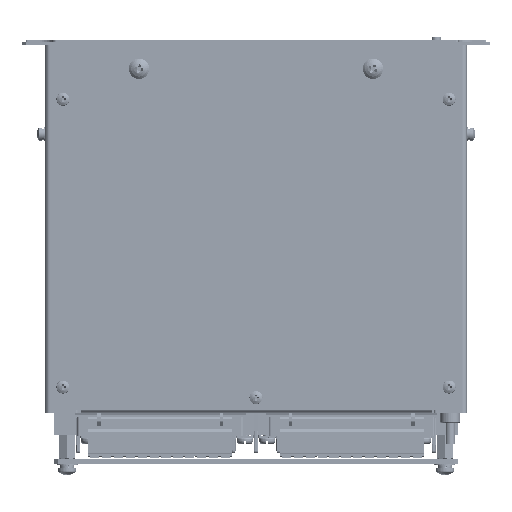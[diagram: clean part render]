
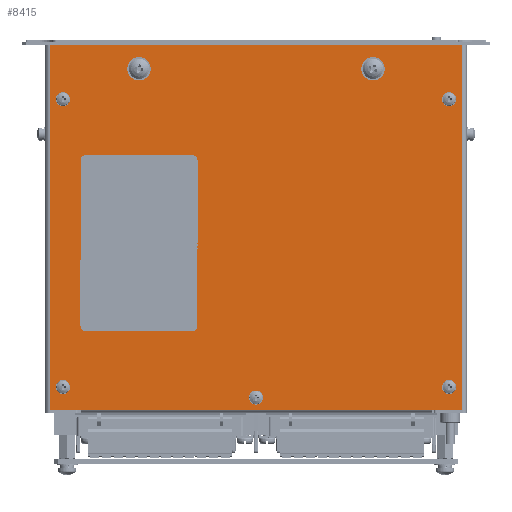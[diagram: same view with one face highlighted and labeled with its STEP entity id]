
A CAD part, left-side view. The second image highlights one B-rep face of the part: STEP entity #8415.
In plain terms, the highlighted planar face has unit normal (-1, 0, 0) as drawn and (0, 0, 1) by its records, which use the part's own axes.
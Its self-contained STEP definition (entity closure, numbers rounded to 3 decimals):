
#8415=ADVANCED_FACE('',(#267434,#267436,#267438,#267440,#267442,#267444,#267446,
#267448),#267450,.T.);
#267434=FACE_BOUND('',#267435,.T.);
#267435=EDGE_LOOP('',(#483791,#483792,#483793,#483794));
#267436=FACE_BOUND('',#267437,.T.);
#267437=EDGE_LOOP('',(#483795));
#267438=FACE_BOUND('',#267439,.T.);
#267439=EDGE_LOOP('',(#483796));
#267440=FACE_BOUND('',#267441,.T.);
#267441=EDGE_LOOP('',(#483797));
#267442=FACE_BOUND('',#267443,.T.);
#267443=EDGE_LOOP('',(#483798));
#267444=FACE_BOUND('',#267445,.T.);
#267445=EDGE_LOOP('',(#483799));
#267446=FACE_BOUND('',#267447,.T.);
#267447=EDGE_LOOP('',(#483800));
#267448=FACE_BOUND('',#267449,.T.);
#267449=EDGE_LOOP('',(#483801));
#267450=PLANE('',#267451);
#267451=AXIS2_PLACEMENT_3D('',#267452,#267453,#267454);
#267452=CARTESIAN_POINT('',(0.,0.,1.));
#267453=DIRECTION('',(0.,0.,1.));
#267454=DIRECTION('',(1.,0.,0.));
#483791=ORIENTED_EDGE('',*,*,#663345,.T.);
#483792=ORIENTED_EDGE('',*,*,#663346,.T.);
#483793=ORIENTED_EDGE('',*,*,#663347,.T.);
#483794=ORIENTED_EDGE('',*,*,#663348,.T.);
#483795=ORIENTED_EDGE('',*,*,#663349,.T.);
#483796=ORIENTED_EDGE('',*,*,#663350,.T.);
#483797=ORIENTED_EDGE('',*,*,#663351,.T.);
#483798=ORIENTED_EDGE('',*,*,#663352,.T.);
#483799=ORIENTED_EDGE('',*,*,#663353,.T.);
#483800=ORIENTED_EDGE('',*,*,#663354,.T.);
#483801=ORIENTED_EDGE('',*,*,#663355,.T.);
#663345=EDGE_CURVE('',#748953,#748954,#748955,.T.);
#663346=EDGE_CURVE('',#748954,#748956,#748957,.T.);
#663347=EDGE_CURVE('',#748956,#748958,#748959,.T.);
#663348=EDGE_CURVE('',#748958,#748953,#748960,.T.);
#663349=EDGE_CURVE('',#748961,#748961,#748962,.F.);
#663350=EDGE_CURVE('',#748963,#748963,#748964,.F.);
#663351=EDGE_CURVE('',#748965,#748965,#748966,.F.);
#663352=EDGE_CURVE('',#748967,#748967,#748968,.F.);
#663353=EDGE_CURVE('',#748969,#748969,#748970,.F.);
#663354=EDGE_CURVE('',#748971,#748971,#748972,.F.);
#663355=EDGE_CURVE('',#748973,#748973,#748974,.F.);
#748953=VERTEX_POINT('',#890618);
#748954=VERTEX_POINT('',#890619);
#748955=LINE('',#890620,#890621);
#748956=VERTEX_POINT('',#890623);
#748957=LINE('',#890624,#890625);
#748958=VERTEX_POINT('',#890627);
#748959=LINE('',#890628,#890629);
#748960=LINE('',#890631,#890632);
#748961=VERTEX_POINT('',#890634);
#748962=CIRCLE('',#890635,1.75);
#748963=VERTEX_POINT('',#890639);
#748964=CIRCLE('',#890640,2.25);
#748965=VERTEX_POINT('',#890644);
#748966=CIRCLE('',#890645,2.25);
#748967=VERTEX_POINT('',#890649);
#748968=CIRCLE('',#890650,1.75);
#748969=VERTEX_POINT('',#890654);
#748970=CIRCLE('',#890655,1.75);
#748971=VERTEX_POINT('',#890659);
#748972=CIRCLE('',#890660,1.75);
#748973=VERTEX_POINT('',#890664);
#748974=CIRCLE('',#890665,1.75);
#890618=CARTESIAN_POINT('',(78.,88.,1.));
#890619=CARTESIAN_POINT('',(-78.,88.,1.));
#890620=CARTESIAN_POINT('',(78.,88.,1.));
#890621=VECTOR('',#890622,1.);
#890622=DIRECTION('',(-1.,0.,0.));
#890623=CARTESIAN_POINT('',(-78.,-88.,1.));
#890624=CARTESIAN_POINT('',(-78.,88.,1.));
#890625=VECTOR('',#890626,1.);
#890626=DIRECTION('',(0.,-1.,0.));
#890627=CARTESIAN_POINT('',(78.,-88.,1.));
#890628=CARTESIAN_POINT('',(-78.,-88.,1.));
#890629=VECTOR('',#890630,1.);
#890630=DIRECTION('',(1.,0.,0.));
#890631=CARTESIAN_POINT('',(78.,-88.,1.));
#890632=VECTOR('',#890633,1.);
#890633=DIRECTION('',(0.,1.,0.));
#890634=CARTESIAN_POINT('',(74.25,0.,1.));
#890635=AXIS2_PLACEMENT_3D('',#890636,#890637,#890638);
#890636=CARTESIAN_POINT('',(72.5,0.,1.));
#890637=DIRECTION('',(0.,0.,1.));
#890638=DIRECTION('',(1.,0.,0.));
#890639=CARTESIAN_POINT('',(-65.75,50.,1.));
#890640=AXIS2_PLACEMENT_3D('',#890641,#890642,#890643);
#890641=CARTESIAN_POINT('',(-68.,50.,1.));
#890642=DIRECTION('',(0.,0.,1.));
#890643=DIRECTION('',(1.,0.,0.));
#890644=CARTESIAN_POINT('',(-65.75,-50.,1.));
#890645=AXIS2_PLACEMENT_3D('',#890646,#890647,#890648);
#890646=CARTESIAN_POINT('',(-68.,-50.,1.));
#890647=DIRECTION('',(0.,0.,1.));
#890648=DIRECTION('',(1.,0.,0.));
#890649=CARTESIAN_POINT('',(-53.25,82.5,1.));
#890650=AXIS2_PLACEMENT_3D('',#890651,#890652,#890653);
#890651=CARTESIAN_POINT('',(-55.,82.5,1.));
#890652=DIRECTION('',(0.,0.,1.));
#890653=DIRECTION('',(1.,0.,0.));
#890654=CARTESIAN_POINT('',(69.75,82.5,1.));
#890655=AXIS2_PLACEMENT_3D('',#890656,#890657,#890658);
#890656=CARTESIAN_POINT('',(68.,82.5,1.));
#890657=DIRECTION('',(0.,0.,1.));
#890658=DIRECTION('',(1.,0.,0.));
#890659=CARTESIAN_POINT('',(-53.25,-82.5,1.));
#890660=AXIS2_PLACEMENT_3D('',#890661,#890662,#890663);
#890661=CARTESIAN_POINT('',(-55.,-82.5,1.));
#890662=DIRECTION('',(0.,0.,1.));
#890663=DIRECTION('',(1.,0.,0.));
#890664=CARTESIAN_POINT('',(69.75,-82.5,1.));
#890665=AXIS2_PLACEMENT_3D('',#890666,#890667,#890668);
#890666=CARTESIAN_POINT('',(68.,-82.5,1.));
#890667=DIRECTION('',(0.,0.,1.));
#890668=DIRECTION('',(1.,0.,0.));
